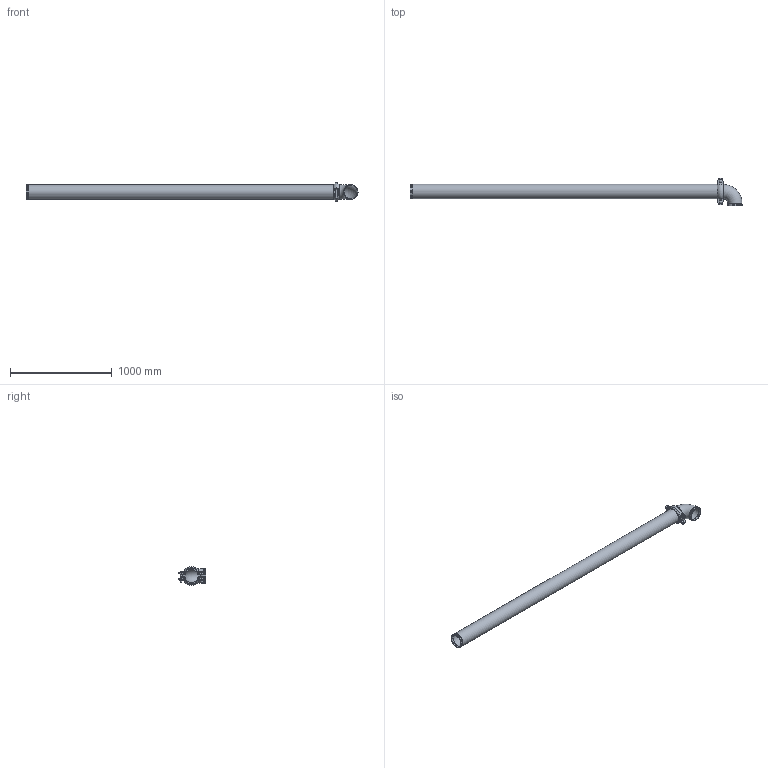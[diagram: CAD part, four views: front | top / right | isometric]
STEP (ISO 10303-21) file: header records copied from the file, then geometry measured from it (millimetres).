
FILE_DESCRIPTION(/* description */ ('VIC LONG RUN FITTING No R13 (OGS)','CAx-IF Rec.Pracs.---Representation and Presentation of Product Manufacturing Information (PMI)---4.0---2014-10-13'),/* implementation_level */ '2;1');
FILE_NAME(/* name */ 'C:\Users\Vjadhav\AppData\Roaming\Autodesk\ApplicationPlugins\Back Up\Victaulic_IPS_Long Run Fittings_No R13 (OGS)\Victaulic_IPS_Long Run Fittings_No R13 (OGS)_5 (125).stp',/* time_stamp */ '2020-10-06T18:26:42+06:00',/* author */ ('Vjadhav'),/* organization */ ('Victaulic'),/* preprocessor_version */ 'ST-DEVELOPER v17.2',/* originating_system */ 'Autodesk Inventor 2019',/* authorisation */ '');
FILE_SCHEMA (('AP242_MANAGED_MODEL_BASED_3D_ENGINEERING_MIM_LF { 1 0 10303 442 1 1 4 }'));
Length unit declared in the file: inch
Products named in the file (4): R13-05.0; 010-05.0; 107N-05.0; Pipe_R13-05.0
Assembly tree (3 placements, depth 2):
  R13-05.0
    010-05.0
    107N-05.0
    Pipe_R13-05.0
Bounding box: 3262.16 x 269.88 x 180.89 mm (x, y, z)
Volume: 9667031 mm3; surface area: 2898374.8 mm2
Topology: 3 solids, 3 shells, 151 faces, 389 edges, 260 vertices
Faces by surface type: plane 62, cylinder 59, bspline 16, torus 8, cone 4, sphere 2
Full cylindrical faces by diameter (mm): 15.875 x4, 27.381 x2, 128.194 x3, 128.6 x1, 137.033 x4, 141.3 x7
Entity records: 5828 total; most frequent: CARTESIAN_POINT 1741, DIRECTION 817, ORIENTED_EDGE 778, EDGE_CURVE 389, AXIS2_PLACEMENT_3D 322, VERTEX_POINT 260, EDGE_LOOP 177, LINE 173
